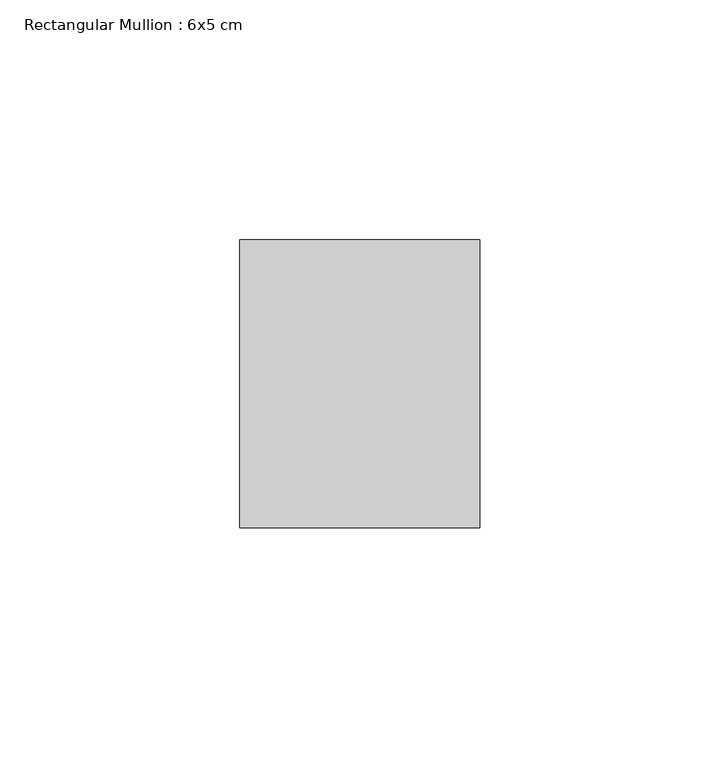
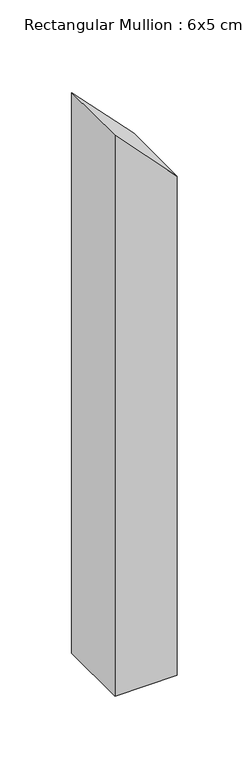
"""IFC4 building model written with IfcOpenShell, lengths in millimetres: member geometry, Rectangular Mullion : 6x5 cm."""

import ifcopenshell
import ifcopenshell.guid

model = None  # the IFC model being written
_history = None  # IfcOwnerHistory: only IFC2X3 demands one
_inside = {}  # id of a spatial element -> (the spatial element, [elements in it])
_under = {}  # id of a project, library or spatial element -> (it, [spatial elements below it])
_declared = {}  # id of a project -> (the project, [libraries it declares])
_typed = {}  # id of a type object -> (the type object, [elements of that type])
_made_of = {}  # id of a material, layer set ... -> (it, [elements and type objects made of it])


def new_model(schema):
    """Start an empty IFC model of exactly this schema.

    Asked for "IFC4X3", IfcOpenShell would pick the latest addendum, in which some entities
    have other attributes; the version numbers below select the first issue.
    IFC2X3 requires an IfcOwnerHistory on every rooted entity: one is made here for all.
    """
    global model, _history
    if schema == "IFC4X3":
        model = ifcopenshell.file(schema_version=(4, 3, 0, 0))
    else:
        model = ifcopenshell.file(schema=schema)
    _inside.clear()
    _under.clear()
    _declared.clear()
    _typed.clear()
    _made_of.clear()
    _history = None
    if model.schema == "IFC2X3":
        org = make("IfcOrganization", Name="unknown")
        user = make(
            "IfcPersonAndOrganization",
            ThePerson=make("IfcPerson", FamilyName="unknown"),
            TheOrganization=org,
        )
        app = make(
            "IfcApplication",
            ApplicationDeveloper=org,
            Version="unknown",
            ApplicationFullName="unknown",
            ApplicationIdentifier="unknown",
        )
        _history = make(
            "IfcOwnerHistory",
            OwningUser=user,
            OwningApplication=app,
            ChangeAction="ADDED",
            CreationDate=0,
        )
    return model


def make(cls, **values):
    """One entity of the class cls with the attributes given. An attribute that is None is left unset."""
    return model.create_entity(
        cls, **{name: value for name, value in values.items() if value is not None}
    )


def rooted(cls, **values):
    """An entity with a GlobalId (a new one), such as an element, a storey or a relation."""
    return make(cls, GlobalId=ifcopenshell.guid.new(), OwnerHistory=_history, **values)


def si_unit(unit_type, name, prefix=None):
    """IfcSIUnit, for example si_unit("LENGTHUNIT", "METRE", prefix="MILLI")."""
    return make("IfcSIUnit", UnitType=unit_type, Prefix=prefix, Name=name)


def assignment(units):
    """IfcUnitAssignment: the units of a project."""
    return None if units is None else make("IfcUnitAssignment", Units=units)


def point(xyz):
    """IfcCartesianPoint."""
    return None if xyz is None else make("IfcCartesianPoint", Coordinates=xyz)


def direction(xyz):
    """IfcDirection."""
    return None if xyz is None else make("IfcDirection", DirectionRatios=xyz)


def frame(location, z_axis=None, x_axis=None):
    """IfcAxis2Placement3D, a coordinate frame: its origin and axes. An axis left out is left unset."""
    return make(
        "IfcAxis2Placement3D",
        Location=point(location),
        Axis=direction(z_axis),
        RefDirection=direction(x_axis),
    )


def origin():
    """The frame at (0, 0, 0) with its axes left unset."""
    return frame((0.0, 0.0, 0.0))


def place(relative_to, where):
    """IfcLocalPlacement: puts the frame where relative to a parent placement (None: the world)."""
    return make(
        "IfcLocalPlacement", PlacementRelTo=relative_to, RelativePlacement=where
    )


def context(
    kind, dimensions, precision=None, world=None, true_north=None, identifier=None
):
    """IfcGeometricRepresentationContext, for example the 3D "Model" context."""
    return make(
        "IfcGeometricRepresentationContext",
        ContextIdentifier=identifier,
        ContextType=kind,
        CoordinateSpaceDimension=dimensions,
        Precision=precision,
        WorldCoordinateSystem=world,
        TrueNorth=true_north,
    )


def project(units=None, contexts=None):
    """IfcProject with its units and contexts."""
    return rooted(
        "IfcProject",
        Name="project",
        RepresentationContexts=contexts,
        UnitsInContext=assignment(units),
    )


def spatial(cls, under=None, at=None, **own):
    """A site, building, storey or space (cls), placed at a placement, below another one or the project."""
    s = rooted(cls, ObjectPlacement=at, **own)
    if under is not None:
        _under.setdefault(under.id(), (under, []))[1].append(s)
    return s


def polyline(points):
    """IfcPolyline through the points."""
    return make("IfcPolyline", Points=[point(p) for p in points])


def outline(outer, holes=None, kind="AREA"):
    """IfcArbitraryClosedProfileDef: a profile drawn as a closed curve; with holes, ...WithVoids."""
    if holes is None:
        return make("IfcArbitraryClosedProfileDef", ProfileType=kind, OuterCurve=outer)
    return make(
        "IfcArbitraryProfileDefWithVoids",
        ProfileType=kind,
        OuterCurve=outer,
        InnerCurves=holes,
    )


def extrude(swept, where, along, depth):
    """IfcExtrudedAreaSolid: the profile swept, set in the frame where, extruded along a direction by depth."""
    return make(
        "IfcExtrudedAreaSolid",
        SweptArea=swept,
        Position=where,
        ExtrudedDirection=direction(along),
        Depth=depth,
    )


def shape(context_of_items, identifier, shape_type, items):
    """IfcShapeRepresentation: the items that make up one representation, for example the "Body"."""
    return make(
        "IfcShapeRepresentation",
        ContextOfItems=context_of_items,
        RepresentationIdentifier=identifier,
        RepresentationType=shape_type,
        Items=items,
    )


def source(mapping_origin, context_of_items, identifier, shape_type, items):
    """IfcRepresentationMap: a shape defined once, which mapped items show again and again."""
    return make(
        "IfcRepresentationMap",
        MappingOrigin=mapping_origin,
        MappedRepresentation=shape(context_of_items, identifier, shape_type, items),
    )


def transform(
    local_origin,
    x_axis=None,
    y_axis=None,
    z_axis=None,
    scale=None,
    scale2=None,
    scale3=None,
    uniform=True,
):
    """IfcCartesianTransformationOperator3D, or its non-uniform kind. x_axis, y_axis, z_axis: its Axis1, 2, 3."""
    if uniform:
        return make(
            "IfcCartesianTransformationOperator3D",
            Axis1=direction(x_axis),
            Axis2=direction(y_axis),
            LocalOrigin=point(local_origin),
            Scale=scale,
            Axis3=direction(z_axis),
        )
    return make(
        "IfcCartesianTransformationOperator3DnonUniform",
        Axis1=direction(x_axis),
        Axis2=direction(y_axis),
        LocalOrigin=point(local_origin),
        Scale=scale,
        Axis3=direction(z_axis),
        Scale2=scale2,
        Scale3=scale3,
    )


def mapped(mapping_source, mapping_target):
    """IfcMappedItem: shows the shape of a source again, moved by a transform."""
    return make(
        "IfcMappedItem", MappingSource=mapping_source, MappingTarget=mapping_target
    )


def made_of(thing, what):
    """Note that an element or type object is made of a material, layer set ...; save() writes the relation."""
    if what is not None:
        _made_of.setdefault(what.id(), (what, []))[1].append(thing)
    return thing


def element(
    cls,
    number,
    at=None,
    inside=None,
    cuts=None,
    type_object=None,
    material=None,
    context=None,
    identifier="Body",
    shape_type=None,
    held_by="IfcProductDefinitionShape",
    body=None,
    shapes=None,
    **own,
):
    """One element of the class cls, such as IfcWall. Its Tag is "e" and its number.

    at: its placement. inside: the storey or other place that contains it. cuts: it is an
    opening in that element (IfcRelVoidsElement). A single representation is given by context,
    identifier, shape_type and body (its items); several are given by shapes. held_by: the class
    of the entity that holds the representations. save() writes the other relations.
    """
    e = rooted(cls, Tag="e%d" % number, ObjectPlacement=at, **own)
    if body is not None:
        shapes = [shape(context, identifier, shape_type, body)]
    if shapes is not None:
        e.Representation = make(held_by, Representations=shapes)
    if inside is not None:
        _inside.setdefault(inside.id(), (inside, []))[1].append(e)
    if cuts is not None:
        rooted(
            "IfcRelVoidsElement", RelatingBuildingElement=cuts, RelatedOpeningElement=e
        )
    if type_object is not None:
        _typed.setdefault(type_object.id(), (type_object, []))[1].append(e)
    return made_of(e, material)


def aggregate(whole, parts):
    """IfcRelAggregates: a whole, such as a stair, and the parts it consists of."""
    return rooted("IfcRelAggregates", RelatingObject=whole, RelatedObjects=parts)


def save(model, path):
    """Write the relations noted so far, then the file.

    IfcRelAggregates (storeys below a building ...), IfcRelContainedInSpatialStructure (elements
    in a storey), IfcRelDefinesByType, IfcRelAssociatesMaterial and IfcRelDeclares: one each for
    every whole, place, type object, material and project.
    """
    for whole, parts in _under.values():
        aggregate(whole, parts)
    for where, things in _inside.values():
        rooted(
            "IfcRelContainedInSpatialStructure",
            RelatedElements=things,
            RelatingStructure=where,
        )
    for kind, things in _typed.values():
        rooted("IfcRelDefinesByType", RelatedObjects=things, RelatingType=kind)
    for what, things in _made_of.values():
        rooted("IfcRelAssociatesMaterial", RelatedObjects=things, RelatingMaterial=what)
    for by, libraries in _declared.values():
        rooted("IfcRelDeclares", RelatingContext=by, RelatedDefinitions=libraries)
    model.write(path)


def rectangular_mullion_6x5_cm_ff4e2c6f(model_context):
    return source(origin(), model_context, "Body", "SweptSolid", [
        extrude(outline(polyline([(-98.3849277, 25.0), (-46.1833952, -25.0), (-522.0153257, -25.0), (-522.0153257, 25.0), (-98.3849277, 25.0)])), frame((0.0, 20.0, 0.0), z_axis=(0.0, 1.0, 0.0), x_axis=(0.0, 0.0, 1.0)), (0.0, 0.0, 1.0), 60.0),
    ])


if __name__ == "__main__":
    model = new_model("IFC4")
    model_context = context("Model", 3, world=origin())
    ifc_project = project(units=[si_unit("LENGTHUNIT", "METRE", prefix="MILLI")], contexts=[model_context])
    site = spatial("IfcSite", under=ifc_project)
    building = spatial("IfcBuilding", under=site)
    placement = place(None, origin())
    rectangular_mullion_6x5_cm_shape = rectangular_mullion_6x5_cm_ff4e2c6f(model_context)
    element("IfcMember", 1, ObjectType="Rectangular Mullion : 6x5 cm", at=placement, inside=building, context=model_context, shape_type="MappedRepresentation", body=[
        mapped(rectangular_mullion_6x5_cm_shape, transform((0.0, 0.0, 0.0), x_axis=(1.0, 0.0, 0.0), y_axis=(0.0, 1.0, 0.0), z_axis=(0.0, 0.0, 1.0))),
    ])
    save(model, "model.ifc")
